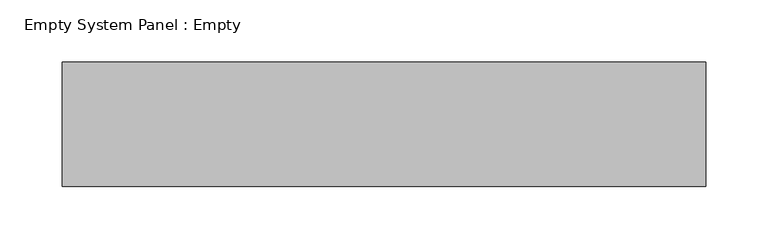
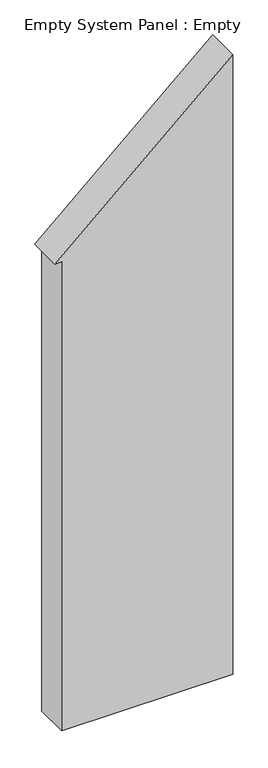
"""IFC4 building model written with IfcOpenShell, lengths in millimetres: plate geometry, Empty System Panel : Empty."""

from ifc_helpers import new_model, si_unit, frame, origin, place, context, project, spatial, polyline, outline, extrude, source, transform, mapped, element, save


def empty_system_panel_empty_793aec77(model_context):
    return source(origin(), model_context, "Body", "SweptSolid", [
        extrude(outline(polyline([(0.0, -238.7446429), (0.0, 258.7446429), (1905.2809548, 258.7446429), (1442.3784576, -258.7446429), (1442.3784576, -238.7446429), (0.0, -238.7446429)])), frame((0.0, -50.0, 0.0), z_axis=(0.0, 1.0, 0.0), x_axis=(0.0, 0.0, 1.0)), (0.0, 0.0, 1.0), 100.0),
    ])


if __name__ == "__main__":
    model = new_model("IFC4")
    model_context = context("Model", 3, world=origin())
    ifc_project = project(units=[si_unit("LENGTHUNIT", "METRE", prefix="MILLI")], contexts=[model_context])
    site = spatial("IfcSite", under=ifc_project)
    building = spatial("IfcBuilding", under=site)
    placement = place(None, origin())
    empty_system_panel_empty_shape = empty_system_panel_empty_793aec77(model_context)
    element("IfcPlate", 1, ObjectType="Empty System Panel : Empty", at=placement, inside=building, context=model_context, shape_type="MappedRepresentation", body=[
        mapped(empty_system_panel_empty_shape, transform((0.0, 0.0, 0.0), x_axis=(1.0, 0.0, 0.0), y_axis=(0.0, 1.0, 0.0), z_axis=(0.0, 0.0, 1.0))),
    ])
    save(model, "model.ifc")
